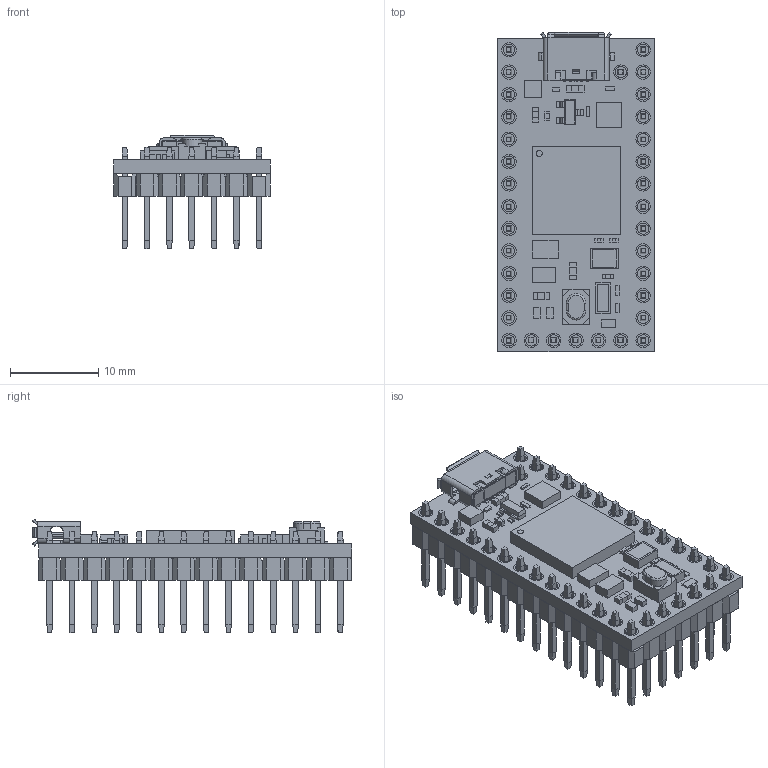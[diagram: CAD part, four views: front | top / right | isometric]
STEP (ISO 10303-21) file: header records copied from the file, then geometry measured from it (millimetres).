
FILE_DESCRIPTION(/* description */ (''),/* implementation_level */ '2;1');
FILE_NAME(/* name */ 'C:/Users/shawn/OneDrive/Shawn/Circuit Studio/Libraries/3d models/Teensy40 with headers.stp',/* time_stamp */ '2024-06-22T09:37:15-07:00',/* author */ (''),/* organization */ (''),/* preprocessor_version */ 'ST-DEVELOPER v15.2',/* originating_system */ 'Autodesk Translator Framework v2.0.0.5431',/* authorisation */ '');
FILE_SCHEMA (('AUTOMOTIVE_DESIGN { 1 0 10303 214 3 1 1 }'));
Products named in the file (1): (Unsaved)
Bounding box: 17.8 x 36.26 x 12.95 mm (x, y, z)
Volume: 1804.7 mm3; surface area: 5194.7 mm2
Topology: 289 solids, 289 shells, 3479 faces, 7774 edges, 4734 vertices
Faces by surface type: plane 2597, cylinder 694, sphere 176, bspline 6, torus 6
Full cylindrical faces by diameter (mm): 0.7 x2, 1.27 x34, 1.63 x68
Entity records: 93115 total; most frequent: CARTESIAN_POINT 16183, DIRECTION 15823, ORIENTED_EDGE 14988, EDGE_CURVE 7494, LINE 6071, VECTOR 6071, AXIS2_PLACEMENT_3D 4876, VERTEX_POINT 4734
